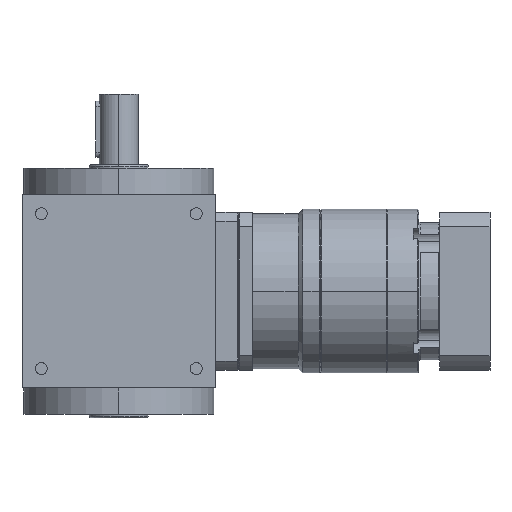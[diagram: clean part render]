
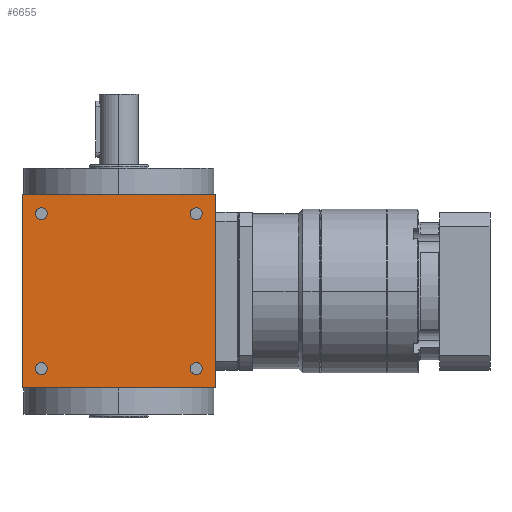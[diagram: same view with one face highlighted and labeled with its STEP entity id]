
A CAD part, left-side view. The second image highlights one B-rep face of the part: STEP entity #6655.
In plain terms, the highlighted planar face has unit normal (-1, 0, 0).
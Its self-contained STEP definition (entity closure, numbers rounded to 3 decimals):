
#3 = CIRCLE ( 'NONE', #6559, 3.4 ) ;
#48 = EDGE_LOOP ( 'NONE', ( #5929, #6271, #16071, #15979 ) ) ;
#284 = DIRECTION ( 'NONE',  ( 0., 0., 1. ) ) ;
#742 = LINE ( 'NONE', #1968, #11973 ) ;
#846 = DIRECTION ( 'NONE',  ( 1., 0., 0. ) ) ;
#897 = EDGE_LOOP ( 'NONE', ( #7544, #4076 ) ) ;
#909 = ORIENTED_EDGE ( 'NONE', *, *, #3016, .T. ) ;
#964 = ORIENTED_EDGE ( 'NONE', *, *, #6021, .T. ) ;
#1071 = CARTESIAN_POINT ( 'NONE',  ( -55., -44., 44. ) ) ;
#1205 = CARTESIAN_POINT ( 'NONE',  ( -55., 44., 44. ) ) ;
#1237 = AXIS2_PLACEMENT_3D ( 'NONE', #7596, #1262, #284 ) ;
#1262 = DIRECTION ( 'NONE',  ( 1., 0., 0. ) ) ;
#1867 = VECTOR ( 'NONE', #16127, 1000. ) ;
#1868 = CARTESIAN_POINT ( 'NONE',  ( -55., -44., 40.6 ) ) ;
#1968 = CARTESIAN_POINT ( 'NONE',  ( -55., 55., -55. ) ) ;
#2004 = DIRECTION ( 'NONE',  ( 1., 0., 0. ) ) ;
#2367 = CARTESIAN_POINT ( 'NONE',  ( -55., 55., -55. ) ) ;
#2400 = AXIS2_PLACEMENT_3D ( 'NONE', #15160, #6334, #15238 ) ;
#2420 = CARTESIAN_POINT ( 'NONE',  ( -55., -44., -44. ) ) ;
#2624 = FACE_BOUND ( 'NONE', #14921, .T. ) ;
#2661 = DIRECTION ( 'NONE',  ( 0., 0., 1. ) ) ;
#2782 = FACE_BOUND ( 'NONE', #897, .T. ) ;
#2869 = EDGE_LOOP ( 'NONE', ( #909, #11577 ) ) ;
#3016 = EDGE_CURVE ( 'NONE', #7829, #6338, #3, .T. ) ;
#3197 = VERTEX_POINT ( 'NONE', #12493 ) ;
#3465 = CARTESIAN_POINT ( 'NONE',  ( -55., 55., 55. ) ) ;
#3468 = DIRECTION ( 'NONE',  ( 0., 1., 0. ) ) ;
#3536 = CARTESIAN_POINT ( 'NONE',  ( -55., 44., -47.4 ) ) ;
#3864 = VERTEX_POINT ( 'NONE', #1868 ) ;
#3947 = FACE_BOUND ( 'NONE', #11807, .T. ) ;
#4076 = ORIENTED_EDGE ( 'NONE', *, *, #14099, .T. ) ;
#4294 = CIRCLE ( 'NONE', #15774, 3.4 ) ;
#4350 = VERTEX_POINT ( 'NONE', #9806 ) ;
#4426 = EDGE_CURVE ( 'NONE', #6338, #7829, #7010, .T. ) ;
#4774 = DIRECTION ( 'NONE',  ( 0., 0., 1. ) ) ;
#4891 = VERTEX_POINT ( 'NONE', #6098 ) ;
#5107 = ORIENTED_EDGE ( 'NONE', *, *, #11327, .T. ) ;
#5474 = CARTESIAN_POINT ( 'NONE',  ( -55., 44., 47.4 ) ) ;
#5545 = AXIS2_PLACEMENT_3D ( 'NONE', #10899, #5817, #15704 ) ;
#5722 = VERTEX_POINT ( 'NONE', #5474 ) ;
#5817 = DIRECTION ( 'NONE',  ( 1., 0., 0. ) ) ;
#5929 = ORIENTED_EDGE ( 'NONE', *, *, #16053, .T. ) ;
#6021 = EDGE_CURVE ( 'NONE', #3197, #6148, #14677, .T. ) ;
#6095 = DIRECTION ( 'NONE',  ( 1., 0., 0. ) ) ;
#6098 = CARTESIAN_POINT ( 'NONE',  ( -55., 44., 40.6 ) ) ;
#6148 = VERTEX_POINT ( 'NONE', #14391 ) ;
#6204 = EDGE_CURVE ( 'NONE', #5722, #4891, #12351, .T. ) ;
#6271 = ORIENTED_EDGE ( 'NONE', *, *, #8111, .T. ) ;
#6334 = DIRECTION ( 'NONE',  ( -1., 0., 0. ) ) ;
#6338 = VERTEX_POINT ( 'NONE', #3536 ) ;
#6380 = DIRECTION ( 'NONE',  ( 1., 0., 0. ) ) ;
#6503 = FACE_OUTER_BOUND ( 'NONE', #48, .T. ) ;
#6558 = EDGE_CURVE ( 'NONE', #8920, #9790, #14995, .T. ) ;
#6559 = AXIS2_PLACEMENT_3D ( 'NONE', #13458, #846, #15997 ) ;
#6577 = PLANE ( 'NONE',  #2400 ) ;
#6655 = ADVANCED_FACE ( 'NONE', ( #6503, #2782, #11497, #3947, #2624 ), #6577, .T. ) ;
#7010 = CIRCLE ( 'NONE', #1237, 3.4 ) ;
#7175 = LINE ( 'NONE', #12323, #12476 ) ;
#7544 = ORIENTED_EDGE ( 'NONE', *, *, #7726, .T. ) ;
#7596 = CARTESIAN_POINT ( 'NONE',  ( -55., 44., -44. ) ) ;
#7703 = DIRECTION ( 'NONE',  ( 1., 0., 0. ) ) ;
#7726 = EDGE_CURVE ( 'NONE', #8196, #3864, #4294, .T. ) ;
#7829 = VERTEX_POINT ( 'NONE', #7963 ) ;
#7912 = VECTOR ( 'NONE', #4774, 1000. ) ;
#7963 = CARTESIAN_POINT ( 'NONE',  ( -55., 44., -40.6 ) ) ;
#8111 = EDGE_CURVE ( 'NONE', #4350, #8920, #8524, .T. ) ;
#8196 = VERTEX_POINT ( 'NONE', #11398 ) ;
#8330 = CARTESIAN_POINT ( 'NONE',  ( -55., -44., 44. ) ) ;
#8524 = LINE ( 'NONE', #2367, #1867 ) ;
#8575 = DIRECTION ( 'NONE',  ( 0., 0., 1. ) ) ;
#8743 = DIRECTION ( 'NONE',  ( 1., 0., 0. ) ) ;
#8920 = VERTEX_POINT ( 'NONE', #9215 ) ;
#9215 = CARTESIAN_POINT ( 'NONE',  ( -55., -55., -55. ) ) ;
#9528 = DIRECTION ( 'NONE',  ( 0., 0., -1. ) ) ;
#9695 = ORIENTED_EDGE ( 'NONE', *, *, #13863, .T. ) ;
#9790 = VERTEX_POINT ( 'NONE', #13350 ) ;
#9806 = CARTESIAN_POINT ( 'NONE',  ( -55., 55., -55. ) ) ;
#10016 = CARTESIAN_POINT ( 'NONE',  ( -55., -55., -55. ) ) ;
#10381 = VERTEX_POINT ( 'NONE', #3465 ) ;
#10899 = CARTESIAN_POINT ( 'NONE',  ( -55., 44., 44. ) ) ;
#11327 = EDGE_CURVE ( 'NONE', #6148, #3197, #15249, .T. ) ;
#11398 = CARTESIAN_POINT ( 'NONE',  ( -55., -44., 47.4 ) ) ;
#11497 = FACE_BOUND ( 'NONE', #2869, .T. ) ;
#11577 = ORIENTED_EDGE ( 'NONE', *, *, #4426, .T. ) ;
#11807 = EDGE_LOOP ( 'NONE', ( #964, #5107 ) ) ;
#11890 = CIRCLE ( 'NONE', #13972, 3.4 ) ;
#11973 = VECTOR ( 'NONE', #9528, 1000. ) ;
#12323 = CARTESIAN_POINT ( 'NONE',  ( -55., 55., 55. ) ) ;
#12351 = CIRCLE ( 'NONE', #5545, 3.4 ) ;
#12476 = VECTOR ( 'NONE', #3468, 1000. ) ;
#12493 = CARTESIAN_POINT ( 'NONE',  ( -55., -44., -40.6 ) ) ;
#13106 = AXIS2_PLACEMENT_3D ( 'NONE', #16179, #8743, #8575 ) ;
#13350 = CARTESIAN_POINT ( 'NONE',  ( -55., -55., 55. ) ) ;
#13458 = CARTESIAN_POINT ( 'NONE',  ( -55., 44., -44. ) ) ;
#13766 = DIRECTION ( 'NONE',  ( 0., 0., 1. ) ) ;
#13863 = EDGE_CURVE ( 'NONE', #4891, #5722, #15527, .T. ) ;
#13926 = ORIENTED_EDGE ( 'NONE', *, *, #6204, .T. ) ;
#13972 = AXIS2_PLACEMENT_3D ( 'NONE', #8330, #2004, #14777 ) ;
#14099 = EDGE_CURVE ( 'NONE', #3864, #8196, #11890, .T. ) ;
#14391 = CARTESIAN_POINT ( 'NONE',  ( -55., -44., -47.4 ) ) ;
#14677 = CIRCLE ( 'NONE', #13106, 3.4 ) ;
#14777 = DIRECTION ( 'NONE',  ( 0., 0., 1. ) ) ;
#14921 = EDGE_LOOP ( 'NONE', ( #13926, #9695 ) ) ;
#14995 = LINE ( 'NONE', #10016, #7912 ) ;
#15160 = CARTESIAN_POINT ( 'NONE',  ( -55., 55., -55. ) ) ;
#15238 = DIRECTION ( 'NONE',  ( 0., 0., 1. ) ) ;
#15249 = CIRCLE ( 'NONE', #15765, 3.4 ) ;
#15527 = CIRCLE ( 'NONE', #16062, 3.4 ) ;
#15646 = EDGE_CURVE ( 'NONE', #9790, #10381, #7175, .T. ) ;
#15704 = DIRECTION ( 'NONE',  ( 0., 0., 1. ) ) ;
#15765 = AXIS2_PLACEMENT_3D ( 'NONE', #2420, #6380, #2661 ) ;
#15774 = AXIS2_PLACEMENT_3D ( 'NONE', #1071, #6095, #13766 ) ;
#15979 = ORIENTED_EDGE ( 'NONE', *, *, #15646, .T. ) ;
#15997 = DIRECTION ( 'NONE',  ( 0., 0., 1. ) ) ;
#16053 = EDGE_CURVE ( 'NONE', #10381, #4350, #742, .T. ) ;
#16062 = AXIS2_PLACEMENT_3D ( 'NONE', #1205, #7703, #16196 ) ;
#16071 = ORIENTED_EDGE ( 'NONE', *, *, #6558, .T. ) ;
#16127 = DIRECTION ( 'NONE',  ( 0., -1., 0. ) ) ;
#16179 = CARTESIAN_POINT ( 'NONE',  ( -55., -44., -44. ) ) ;
#16196 = DIRECTION ( 'NONE',  ( 0., 0., 1. ) ) ;
